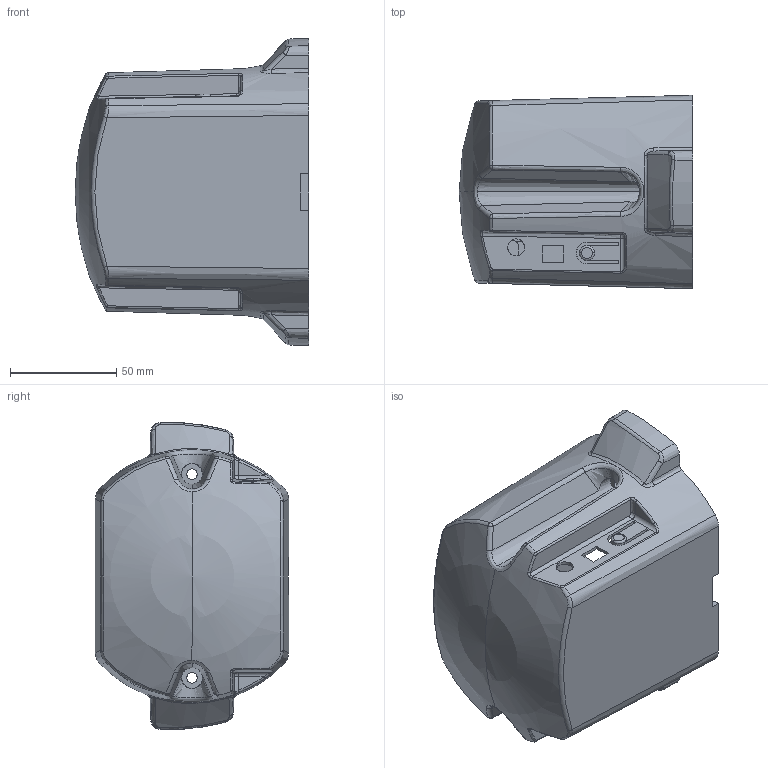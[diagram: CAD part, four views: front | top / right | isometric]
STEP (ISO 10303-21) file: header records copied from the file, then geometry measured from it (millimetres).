
FILE_DESCRIPTION (( 'STEP AP214' ), '1' );
FILE_NAME ('P-00118 - Motor Housing - v2.2.7_Default Configuration.STEP', '2026-06-12T21:51:55', ( '' ), ( '' ), 'SwSTEP 2.0', 'SolidWorks 2023', '' );
FILE_SCHEMA (( 'AUTOMOTIVE_DESIGN' ));
Length unit declared in the file: inch
Products named in the file (1): P-00118 - Motor Housing - v2.2.7_Default Configuration
Bounding box: 110 x 91 x 144.59 mm (x, y, z)
Volume: 152667.9 mm3; surface area: 95848.7 mm2
Topology: 1 solids, 1 shells, 327 faces, 851 edges, 516 vertices
Faces by surface type: bspline 133, plane 83, cone 45, torus 34, cylinder 22, sphere 10
Entity records: 17768 total; most frequent: CARTESIAN_POINT 10900, ORIENTED_EDGE 1678, DIRECTION 1096, EDGE_CURVE 839, VERTEX_POINT 514, AXIS2_PLACEMENT_3D 430, B_SPLINE_CURVE_WITH_KNOTS 340, EDGE_LOOP 337
